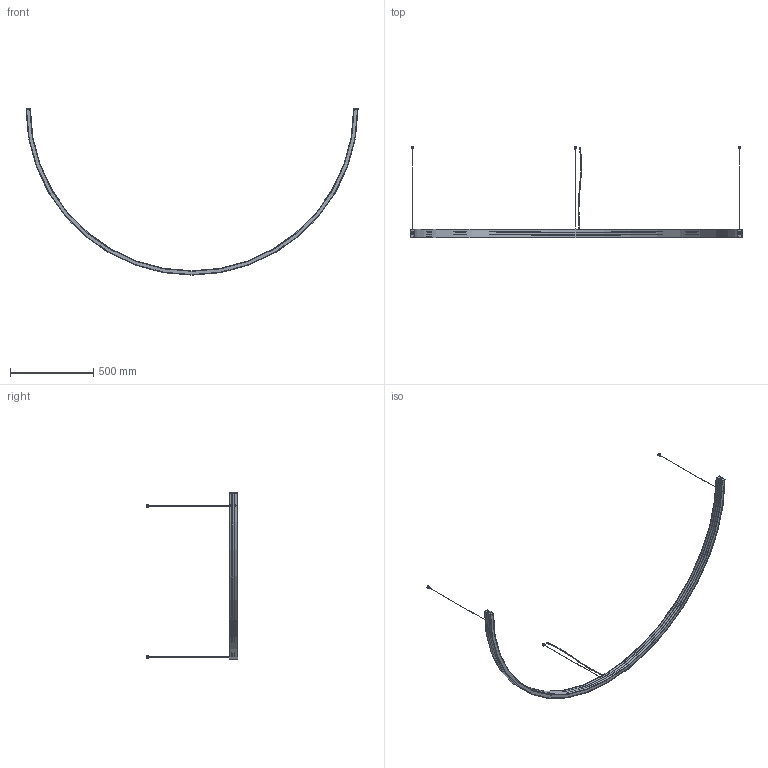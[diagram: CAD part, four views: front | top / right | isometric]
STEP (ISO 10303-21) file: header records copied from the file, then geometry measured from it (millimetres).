
FILE_DESCRIPTION (( 'STEP AP203' ), '1' );
FILE_NAME ('3D ZIRKOL ARCO 2M .STEP', '2023-03-21T15:54:00', ( '' ), ( '' ), 'SwSTEP 2.0', 'SolidWorks 2016', '' );
FILE_SCHEMA (( 'CONFIG_CONTROL_DESIGN' ));
Length unit declared in the file: millimetre
Products named in the file (10): 1-MAS-0378-0-00 Rosone nichelato; 6-SLK-0003-0-00 Testata; 1-MAS-0379-0-00 Attacco rosone; 3-CLE-0846-0-00 Cavo guaina trasparente down; (Gripper+sospensione+rosoncino); 0-MAS-0375-1-00 Cavetto inox; Schermo arco 2M - ok; 1-MAS-0380-0-00 Gripper; Estruso Zirkol arco 2M ok; 3D ZIRKOL ARCO 2M 
Assembly tree (12 placements, depth 3):
  3D ZIRKOL ARCO 2M 
    Estruso Zirkol arco 2M ok
    Schermo arco 2M - ok
    6-SLK-0003-0-00 Testata  x2
    (Gripper+sospensione+rosoncino)  x3
      1-MAS-0380-0-00 Gripper
      0-MAS-0375-1-00 Cavetto inox
      1-MAS-0379-0-00 Attacco rosone
      1-MAS-0378-0-00 Rosone nichelato
    3-CLE-0846-0-00 Cavo guaina trasparente down
Bounding box: 2000 x 548.57 x 1002 mm (x, y, z)
Volume: 1076197.3 mm3; surface area: 1134890.9 mm2
Topology: 20 solids, 20 shells, 923 faces, 2481 edges, 1616 vertices
Faces by surface type: plane 351, cylinder 268, torus 129, bspline 109, cone 66
Entity records: 21181 total; most frequent: CARTESIAN_POINT 9380, ORIENTED_EDGE 2352, DIRECTION 2180, EDGE_CURVE 1176, AXIS2_PLACEMENT_3D 793, VERTEX_POINT 772, VECTOR 594, LINE 594
